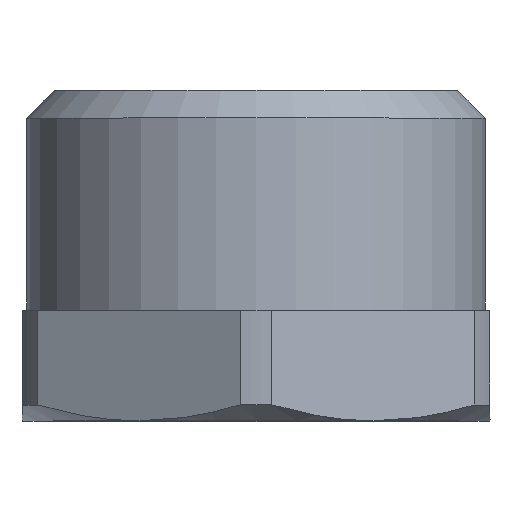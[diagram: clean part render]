
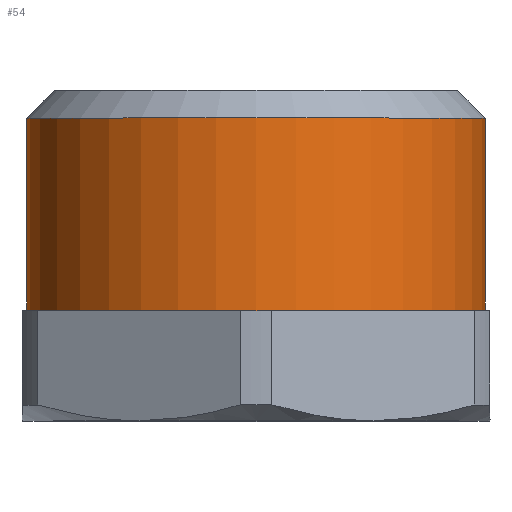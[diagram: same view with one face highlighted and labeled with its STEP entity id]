
A CAD part, top view. The second image highlights one B-rep face of the part: STEP entity #54.
In plain terms, the highlighted cylindrical face has radius 8.331 mm (diameter 16.662 mm), a full revolution.
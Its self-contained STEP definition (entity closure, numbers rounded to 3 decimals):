
#54=ADVANCED_FACE('',(#148,#150),#152,.T.);
#148=FACE_OUTER_BOUND('',#149,.T.);
#149=EDGE_LOOP('',(#305));
#150=FACE_OUTER_BOUND('',#151,.T.);
#151=EDGE_LOOP('',(#306));
#152=CYLINDRICAL_SURFACE('',#153,8.331);
#153=AXIS2_PLACEMENT_3D('',#154,#155,#156);
#154=CARTESIAN_POINT('',(0.,0.,0.));
#155=DIRECTION('',(0.,1.,0.));
#156=DIRECTION('',(-1.,0.,0.));
#305=ORIENTED_EDGE('',*,*,#389,.F.);
#306=ORIENTED_EDGE('',*,*,#408,.T.);
#389=EDGE_CURVE('',#455,#455,#456,.T.);
#408=EDGE_CURVE('',#487,#487,#488,.T.);
#455=VERTEX_POINT('',#580);
#456=CIRCLE('',#581,8.331);
#487=VERTEX_POINT('',#892);
#488=CIRCLE('',#893,8.331);
#580=CARTESIAN_POINT('',(-8.331,11.,0.));
#581=AXIS2_PLACEMENT_3D('',#582,#583,#584);
#582=CARTESIAN_POINT('',(0.,11.,0.));
#583=DIRECTION('',(0.,1.,0.));
#584=DIRECTION('',(-1.,0.,0.));
#892=CARTESIAN_POINT('',(-8.331,4.,0.));
#893=AXIS2_PLACEMENT_3D('',#894,#895,#896);
#894=CARTESIAN_POINT('',(0.,4.,0.));
#895=DIRECTION('',(0.,1.,0.));
#896=DIRECTION('',(-1.,0.,0.));
